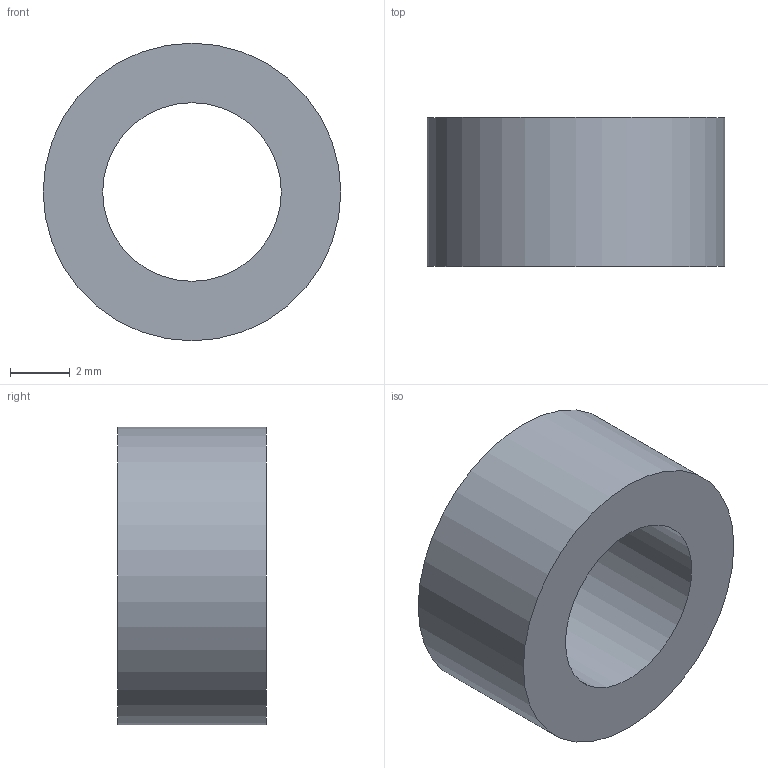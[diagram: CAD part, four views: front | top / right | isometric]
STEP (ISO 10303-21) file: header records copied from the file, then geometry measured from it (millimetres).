
FILE_DESCRIPTION (( 'STEP AP214' ), '1' );
FILE_NAME ('10FF.010.001.16R.STEP', '2026-03-23T19:54:03', ( '' ), ( '' ), 'SwSTEP 2.0', 'SolidWorks 2025', '' );
FILE_SCHEMA (( 'AUTOMOTIVE_DESIGN' ));
Length unit declared in the file: millimetre
Products named in the file (1): 10FF.010.001.16R
Bounding box: 10 x 5 x 10 mm (x, y, z)
Volume: 251.3 mm3; surface area: 351.9 mm2
Topology: 1 solids, 1 shells, 4 faces, 6 edges, 4 vertices
Faces by surface type: plane 2, cylinder 2
Full cylindrical faces by diameter (mm): 6 x1, 10 x1
Entity records: 111 total; most frequent: DIRECTION 18, CARTESIAN_POINT 13, AXIS2_PLACEMENT_3D 9, EDGE_LOOP 8, ORIENTED_EDGE 8, FACE_OUTER_BOUND 6, EDGE_CURVE 4, ADVANCED_FACE 4
